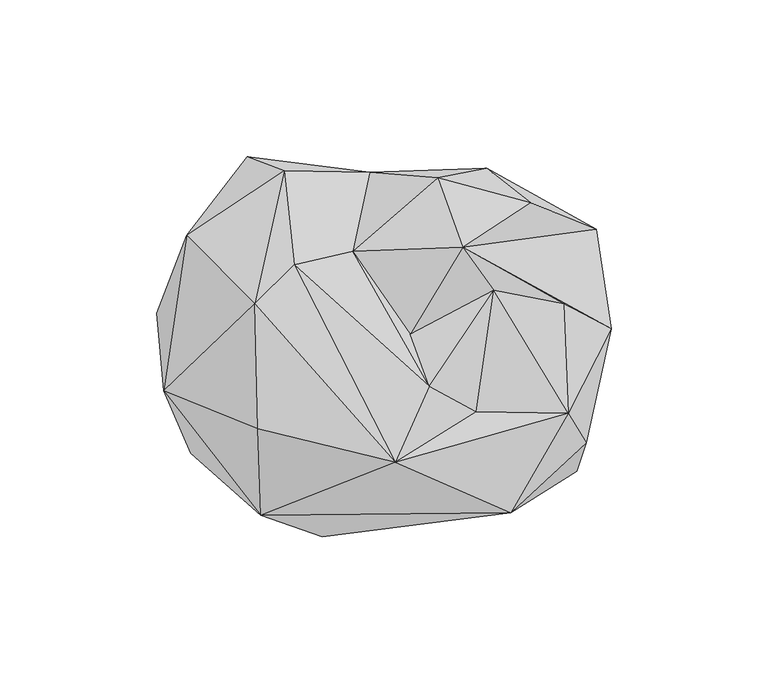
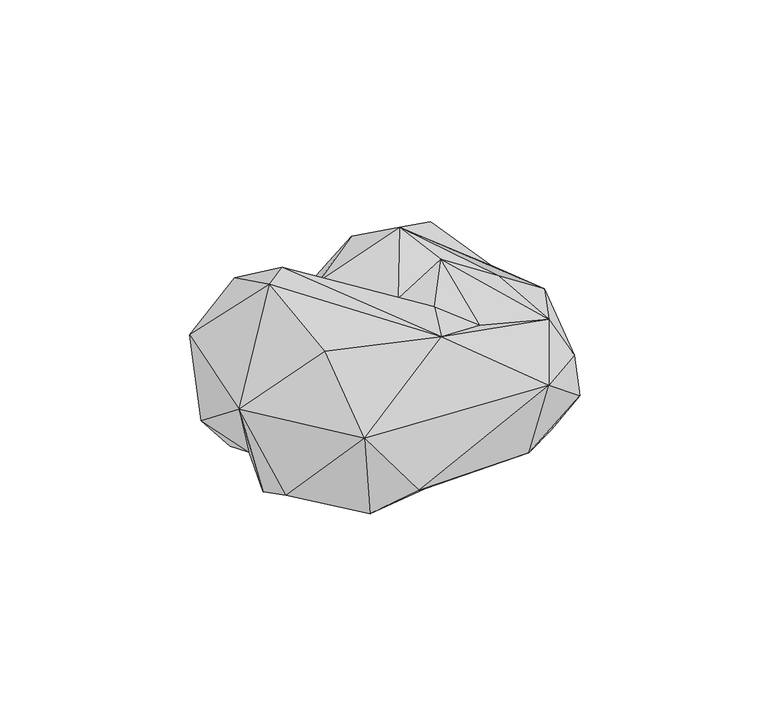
"""IFC4 building model written with IfcOpenShell, lengths in millimetres: geographic element geometry, Enscape AssetDefinition - Food 019 Pastry : Enscape AssetDefinition - Food 019 Pastry."""

from ifc_helpers import new_model, si_unit, origin, place, context, project, spatial, triangles, source, transform, mapped, element, save


def geographic_element_7c99d2c4(model_context):
    return source(origin(), model_context, "Body", "Tessellation", [
        triangles([(8.7229999, 49.8929984, 7.5059996), (-10.0929999, 54.5989975, 0.943), (-25.113999, -13.9279993, 0.701), (-55.8290005, 19.262001, 0.961), (59.6860007, 26.4730003, 0.75), (15.7290011, 24.5870008, 7.3119997), (35.8989988, 41.4180024, 2.689), (31.7739985, 56.3459975, 20.993), (45.7069984, 45.3969974, 51.6509988), (66.665998, 36.8579996, 29.6829992), (23.9889995, 31.1680012, 65.4309989), (7.3250003, 3.4500001, 55.592001), (16.0990003, 53.2929998, 50.7039999), (-11.0409992, 29.7829999, 54.2880017), (-5.5709995, 55.0229996, 30.2509992), (13.4240001, -13.254, 59.9630005), (33.874002, 17.3930006, 55.6730008), (-29.7180012, 25.6140002, 69.3109992), (-64.0140024, 34.9400003, 45.067003), (-32.9109999, 55.4630027, 47.5299976), (-44.6950008, 59.9929996, 16.5890004), (-73.5500028, 10.0369998, 24.4380001), (-42.2560009, 13.0720003, 73.6669969), (-56.7079985, 3.414, 8.1630004), (-71.3960009, -14.6930008, 43.7339993), (-41.3960016, -26.7320007, 67.0669955), (2.4990001, -37.4710004, 64.7699973), (-40.3800025, -54.2760021, 43.6740012), (-62.7269988, -34.547001, 13.7659998), (-63.2449995, -18.2869992, 5.7000001), (-20.8289998, -61.2769965, 17.479001), (-37.754, -53.8579998, 8.2379998), (-7.7999997, -42.8880026, 2.515), (32.9819984, -49.8840009, 8.7879998), (60.4569975, -40.3719998, 19.2660002), (65.0499993, -5.3100002, 2.1599999), (53.2980004, -31.3259994, 0.844), (71.4180017, 5.1949999, 36.5739985), (39.4079961, -53.5630006, 39.5339968), (63.4630004, -31.1689982, 31.2339992), (57.7669999, -21.8069992, 43.9089977), (28.3449995, -21.3100001, 51.1769998), (56.1989997, 13.0759994, 43.0520006)], [[17, 41, 43], [27, 39, 41], [17, 42, 41], [27, 41, 42], [43, 41, 38], [39, 40, 41], [38, 41, 40], [35, 40, 39], [40, 36, 38], [35, 36, 40], [36, 5, 38], [36, 37, 5], [36, 35, 37], [39, 34, 35], [35, 34, 37], [39, 31, 34], [33, 37, 34], [34, 31, 33], [5, 37, 33], [31, 32, 33], [24, 3, 30], [33, 30, 3], [33, 29, 30], [33, 32, 29], [29, 32, 28], [31, 28, 32], [31, 39, 28], [28, 39, 27], [26, 28, 27], [25, 24, 30], [28, 25, 29], [26, 25, 28], [22, 24, 25], [25, 30, 29], [23, 26, 27], [26, 23, 25], [25, 19, 22], [23, 19, 25], [21, 22, 19], [20, 19, 23], [19, 20, 21], [18, 23, 27], [23, 18, 20], [17, 16, 42], [18, 27, 16], [16, 27, 42], [16, 17, 12], [14, 20, 18], [16, 12, 14], [18, 16, 14], [15, 20, 14], [15, 21, 20], [13, 15, 14], [11, 13, 14], [12, 11, 14], [11, 12, 17], [11, 17, 43], [43, 38, 11], [38, 5, 10], [38, 10, 11], [10, 9, 11], [11, 9, 13], [13, 9, 8], [13, 8, 15], [8, 10, 5], [9, 10, 8], [5, 7, 8], [8, 1, 15], [7, 1, 8], [6, 33, 3], [1, 7, 6], [7, 5, 6], [33, 6, 5], [3, 24, 4], [3, 4, 6], [22, 4, 24], [22, 21, 4], [4, 2, 6], [15, 1, 2], [2, 1, 6], [21, 2, 4], [2, 21, 15]]),
    ])


if __name__ == "__main__":
    model = new_model("IFC4")
    model_context = context("Model", 3, world=origin())
    ifc_project = project(units=[si_unit("LENGTHUNIT", "METRE", prefix="MILLI")], contexts=[model_context])
    site = spatial("IfcSite", under=ifc_project)
    building = spatial("IfcBuilding", under=site)
    placement = place(None, origin())
    geographic_element_shape = geographic_element_7c99d2c4(model_context)
    element("IfcGeographicElement", 1, ObjectType="Enscape AssetDefinition - Food 019 Pastry : Enscape AssetDefinition - Food 019 Pastry", at=placement, inside=building, context=model_context, shape_type="MappedRepresentation", body=[
        mapped(geographic_element_shape, transform((0.0, 0.0, 0.0), x_axis=(1.0, 0.0, 0.0), y_axis=(0.0, 1.0, 0.0), z_axis=(0.0, 0.0, 1.0))),
    ])
    save(model, "model.ifc")
